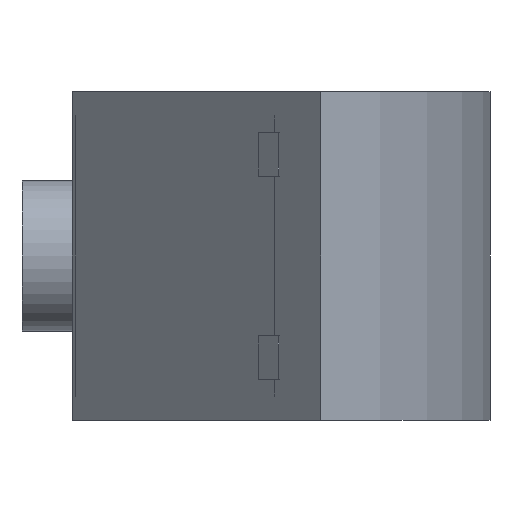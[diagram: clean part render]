
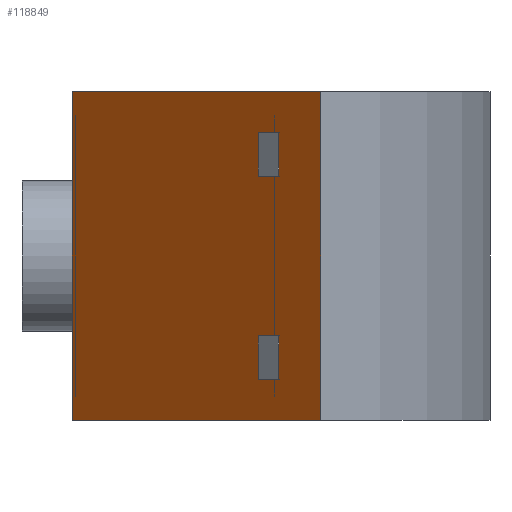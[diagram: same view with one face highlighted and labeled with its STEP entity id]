
A CAD part, front view. The second image highlights one B-rep face of the part: STEP entity #118849.
In plain terms, the highlighted planar face has unit normal (-0.707, -0.707, 0).
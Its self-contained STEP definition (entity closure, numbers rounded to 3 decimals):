
#1869 = EDGE_CURVE ( 'NONE', #160675, #77742, #55010, .T. ) ;
#2260 = DIRECTION ( 'NONE',  ( 0.707, -0.707, 0. ) ) ;
#4365 = CARTESIAN_POINT ( 'NONE',  ( 0., -631.015, 584.2 ) ) ;
#8657 = ORIENTED_EDGE ( 'NONE', *, *, #1869, .F. ) ;
#14364 = DIRECTION ( 'NONE',  ( 0.707, 0.707, 0. ) ) ;
#14470 = CARTESIAN_POINT ( 'NONE',  ( 0., -631.015, 584.2 ) ) ;
#15989 = ORIENTED_EDGE ( 'NONE', *, *, #185866, .F. ) ;
#25770 = VERTEX_POINT ( 'NONE', #85817 ) ;
#36512 = CARTESIAN_POINT ( 'NONE',  ( 0., -631.015, 584.2 ) ) ;
#55010 = LINE ( 'NONE', #4365, #82089 ) ;
#59616 = DIRECTION ( 'NONE',  ( 0., 0., -1. ) ) ;
#66022 = DIRECTION ( 'NONE',  ( -0.707, 0.707, 0. ) ) ;
#66698 = LINE ( 'NONE', #36512, #121038 ) ;
#74850 = VECTOR ( 'NONE', #59616, 1000. ) ;
#77742 = VERTEX_POINT ( 'NONE', #199345 ) ;
#79192 = EDGE_CURVE ( 'NONE', #87545, #25770, #144258, .T. ) ;
#82089 = VECTOR ( 'NONE', #2260, 1000. ) ;
#85817 = CARTESIAN_POINT ( 'NONE',  ( 884.42, -1515.435, -584.2 ) ) ;
#87545 = VERTEX_POINT ( 'NONE', #154871 ) ;
#112566 = AXIS2_PLACEMENT_3D ( 'NONE', #209374, #14364, #66022 ) ;
#118849 = ADVANCED_FACE ( 'NONE', ( #130650 ), #210430, .F. ) ;
#121038 = VECTOR ( 'NONE', #179812, 1000. ) ;
#125314 = CARTESIAN_POINT ( 'NONE',  ( 884.42, -1515.435, 584.2 ) ) ;
#130650 = FACE_OUTER_BOUND ( 'NONE', #194505, .T. ) ;
#142538 = LINE ( 'NONE', #125314, #74850 ) ;
#144258 = LINE ( 'NONE', #188808, #186606 ) ;
#154871 = CARTESIAN_POINT ( 'NONE',  ( 0., -631.015, -584.2 ) ) ;
#157717 = ORIENTED_EDGE ( 'NONE', *, *, #175163, .T. ) ;
#160675 = VERTEX_POINT ( 'NONE', #14470 ) ;
#175163 = EDGE_CURVE ( 'NONE', #160675, #87545, #66698, .T. ) ;
#178024 = ORIENTED_EDGE ( 'NONE', *, *, #79192, .T. ) ;
#179812 = DIRECTION ( 'NONE',  ( 0., 0., -1. ) ) ;
#185866 = EDGE_CURVE ( 'NONE', #77742, #25770, #142538, .T. ) ;
#186606 = VECTOR ( 'NONE', #211043, 1000. ) ;
#188808 = CARTESIAN_POINT ( 'NONE',  ( 0., -631.015, -584.2 ) ) ;
#194505 = EDGE_LOOP ( 'NONE', ( #178024, #15989, #8657, #157717 ) ) ;
#199345 = CARTESIAN_POINT ( 'NONE',  ( 884.42, -1515.435, 584.2 ) ) ;
#209374 = CARTESIAN_POINT ( 'NONE',  ( 0., -631.015, 584.2 ) ) ;
#210430 = PLANE ( 'NONE',  #112566 ) ;
#211043 = DIRECTION ( 'NONE',  ( 0.707, -0.707, 0. ) ) ;
